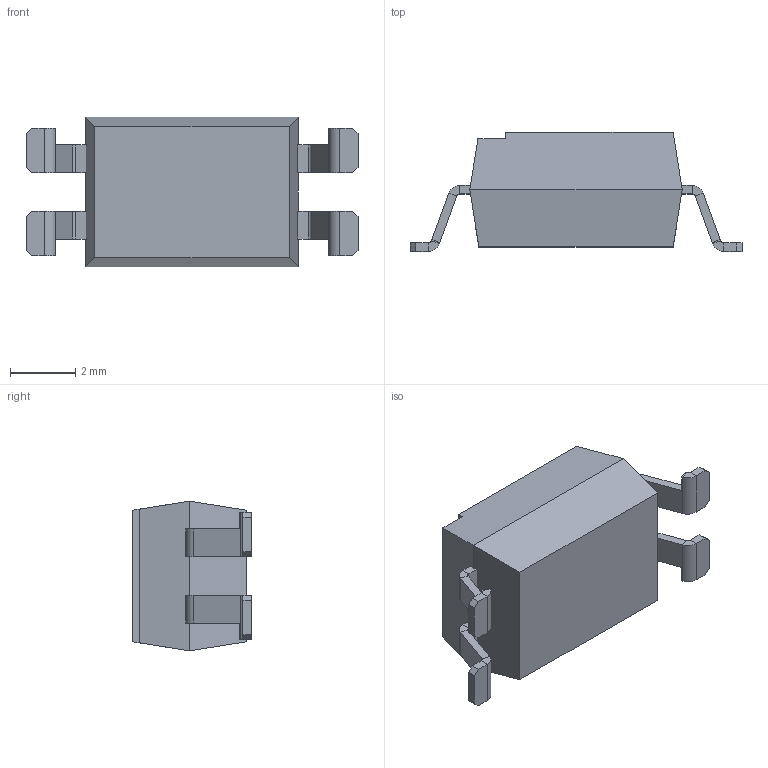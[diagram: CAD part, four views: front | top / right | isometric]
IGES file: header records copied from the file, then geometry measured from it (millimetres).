
Start section: SolidWorks IGES file using analytic representation for surfaces
Global section: file name: C:\Users\David\Dropbox\Jose Espina\Component Packages\DIP4\DIP4-OP9.IGS; native system: SolidWorks 2015; preprocessor: SolidWorks 2015; author: David; date: 151206.120558; units: millimetre
Bounding box: 10.16 x 3.64 x 4.58 mm (x, y, z)
Volume: 108.6 mm3; surface area: 262.9 mm2
Topology: 3 solids, 3 shells, 136 faces, 328 edges, 196 vertices
Faces by surface type: plane 120, revolution 16
